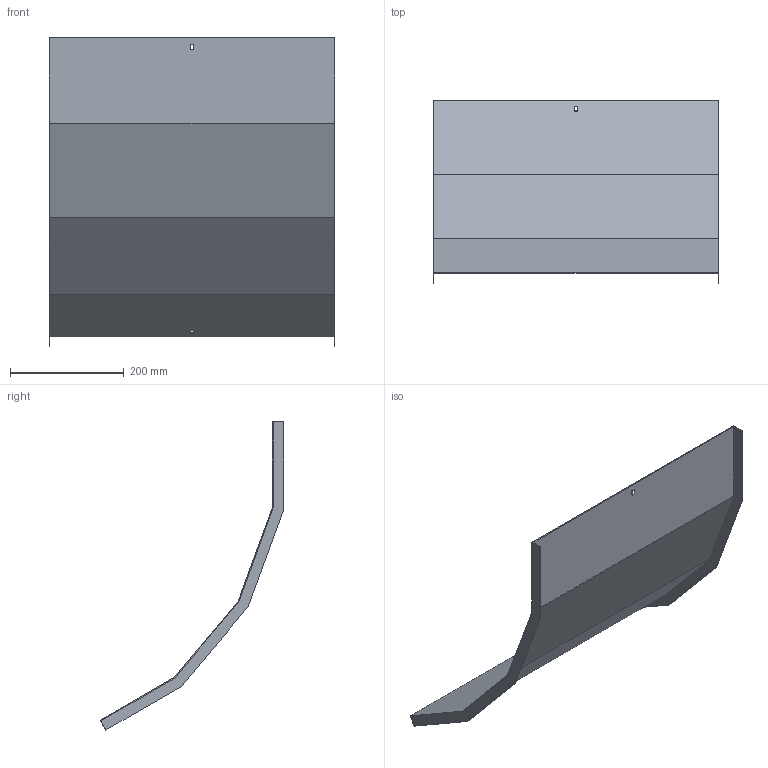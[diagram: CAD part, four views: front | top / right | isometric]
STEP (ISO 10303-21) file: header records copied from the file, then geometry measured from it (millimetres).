
FILE_DESCRIPTION (( 'STEP AP214' ), '1' );
FILE_NAME ('B2X40N5R500X.step', '2025-03-20T09:45:14', ( '' ), ( '' ), 'SwSTEP 2.0', 'SolidWorks 2023', '' );
FILE_SCHEMA (( 'AUTOMOTIVE_DESIGN' ));
Length unit declared in the file: millimetre
Products named in the file (1): B2X40N5R500X
Bounding box: 503 x 322.96 x 542.06 mm (x, y, z)
Volume: 528688.4 mm3; surface area: 708646.1 mm2
Topology: 1 solids, 1 shells, 30 faces, 84 edges, 56 vertices
Faces by surface type: plane 30
Entity records: 979 total; most frequent: CARTESIAN_POINT 171, ORIENTED_EDGE 168, DIRECTION 146, VECTOR 84, EDGE_CURVE 84, LINE 84, VERTEX_POINT 56, EDGE_LOOP 34
